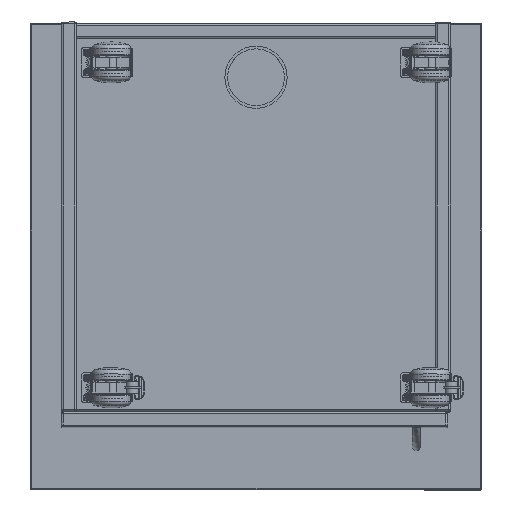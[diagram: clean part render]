
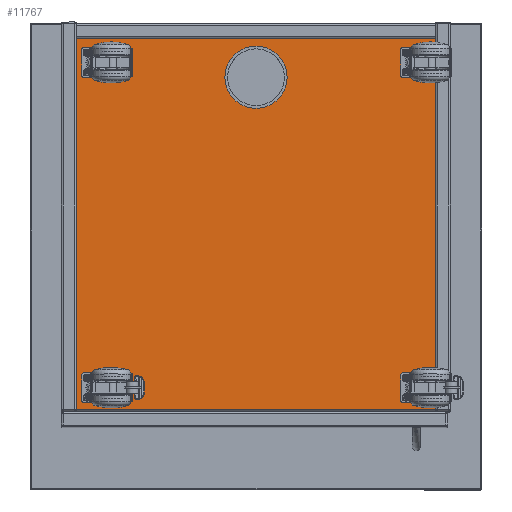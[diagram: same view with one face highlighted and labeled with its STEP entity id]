
A CAD part, top view. The second image highlights one B-rep face of the part: STEP entity #11767.
In plain terms, the highlighted planar face has unit normal (0, 0, 1) as drawn and (0, 0, -1) by its records, which use the part's own axes.
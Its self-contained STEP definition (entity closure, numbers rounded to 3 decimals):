
#994=LINE($,#18999,#1504);
#999=LINE($,#19010,#1509);
#1002=LINE($,#19021,#1512);
#1003=LINE($,#19023,#1513);
#1504=VECTOR($,#15375,47.7);
#1509=VECTOR($,#15386,46.2);
#1512=VECTOR($,#15397,47.7);
#1513=VECTOR($,#15400,46.2);
#1975=PLANE($,#12959);
#2389=FACE_BOUND($,#3922,.T.);
#2873=FACE_OUTER_BOUND($,#3921,.T.);
#3921=EDGE_LOOP($,(#8937,#8938,#8939,#8940));
#3922=EDGE_LOOP($,(#8941));
#4927=CIRCLE($,#12955,4.);
#5730=VERTEX_POINT($,#18996);
#5731=VERTEX_POINT($,#18998);
#5734=VERTEX_POINT($,#19008);
#5736=VERTEX_POINT($,#19014);
#5738=VERTEX_POINT($,#19019);
#6936=EDGE_CURVE($,#5730,#5731,#994,.T.);
#6942=EDGE_CURVE($,#5734,#5730,#999,.T.);
#6944=EDGE_CURVE($,#5736,#5736,#4927,.T.);
#6947=EDGE_CURVE($,#5738,#5734,#1002,.T.);
#6948=EDGE_CURVE($,#5731,#5738,#1003,.T.);
#8937=ORIENTED_EDGE($,*,*,#6942,.F.);
#8938=ORIENTED_EDGE($,*,*,#6947,.F.);
#8939=ORIENTED_EDGE($,*,*,#6948,.F.);
#8940=ORIENTED_EDGE($,*,*,#6936,.F.);
#8941=ORIENTED_EDGE($,*,*,#6944,.T.);
#11767=ADVANCED_FACE($,(#2873,#2389),#1975,.F.);
#12955=AXIS2_PLACEMENT_3D($,#19015,#15391,#15392);
#12959=AXIS2_PLACEMENT_3D($,#19026,#15404,#15405);
#15375=DIRECTION($,(0.,1.,0.));
#15386=DIRECTION($,(1.,0.,0.));
#15391=DIRECTION('center_axis',(0.,0.,1.));
#15392=DIRECTION('ref_axis',(-1.,0.,0.));
#15397=DIRECTION($,(0.,-1.,0.));
#15400=DIRECTION($,(-1.,0.,0.));
#15404=DIRECTION('center_axis',(0.,0.,1.));
#15405=DIRECTION('ref_axis',(1.,0.,0.));
#18996=CARTESIAN_POINT('',(46.2,0.2,0.));
#18998=CARTESIAN_POINT('',(46.2,47.9,0.));
#18999=CARTESIAN_POINT($,(46.2,0.,0.));
#19008=CARTESIAN_POINT('',(0.,0.2,0.));
#19010=CARTESIAN_POINT($,(11.55,0.2,0.));
#19014=CARTESIAN_POINT('',(19.1,42.9,0.));
#19015=CARTESIAN_POINT('Origin',(23.1,42.9,0.));
#19019=CARTESIAN_POINT('',(0.,47.9,0.));
#19021=CARTESIAN_POINT($,(0.,47.9,0.));
#19023=CARTESIAN_POINT($,(46.2,47.9,0.));
#19026=CARTESIAN_POINT('Origin',(23.1,23.95,0.));
